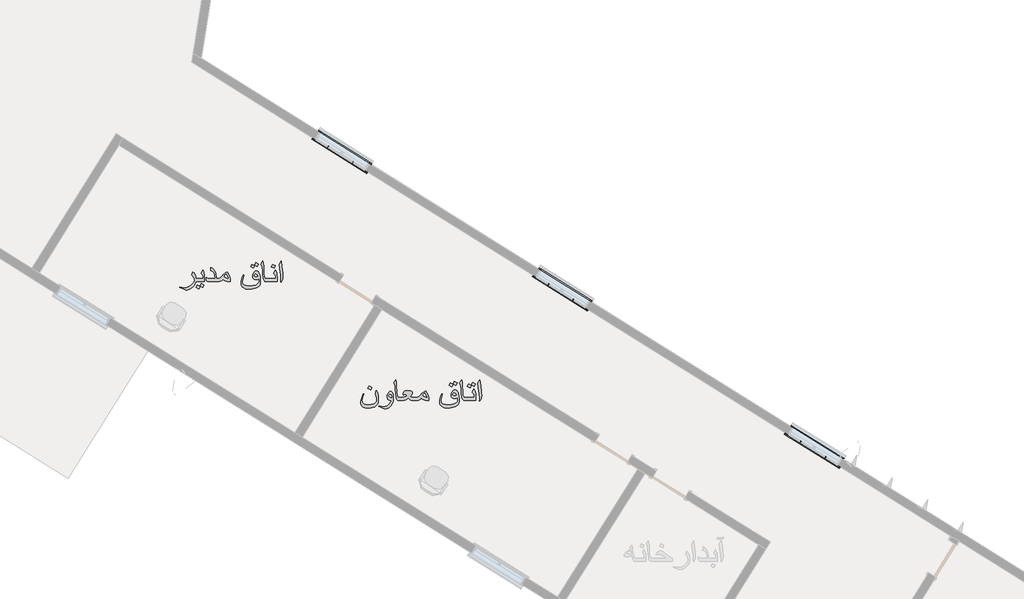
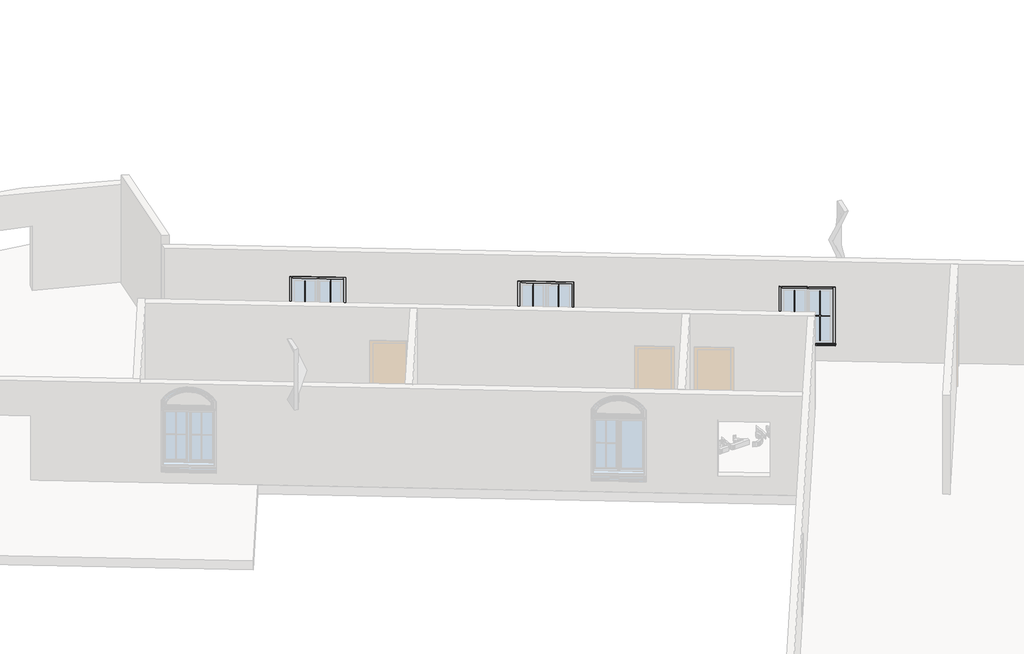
# One storey, part 12 of 12: 14 proxies.
"""IFC4 building model written with IfcOpenShell, lengths in millimetres."""

import ifcopenshell
import ifcopenshell.guid

model = None  # the IFC model being written
_history = None  # IfcOwnerHistory: only IFC2X3 demands one
_inside = {}  # id of a spatial element -> (the spatial element, [elements in it])
_under = {}  # id of a project, library or spatial element -> (it, [spatial elements below it])
_declared = {}  # id of a project -> (the project, [libraries it declares])
_typed = {}  # id of a type object -> (the type object, [elements of that type])
_made_of = {}  # id of a material, layer set ... -> (it, [elements and type objects made of it])


def new_model(schema):
    """Start an empty IFC model of exactly this schema.

    Asked for "IFC4X3", IfcOpenShell would pick the latest addendum, in which some entities
    have other attributes; the version numbers below select the first issue.
    IFC2X3 requires an IfcOwnerHistory on every rooted entity: one is made here for all.
    """
    global model, _history
    if schema == "IFC4X3":
        model = ifcopenshell.file(schema_version=(4, 3, 0, 0))
    else:
        model = ifcopenshell.file(schema=schema)
    _inside.clear()
    _under.clear()
    _declared.clear()
    _typed.clear()
    _made_of.clear()
    _history = None
    if model.schema == "IFC2X3":
        org = make("IfcOrganization", Name="unknown")
        user = make(
            "IfcPersonAndOrganization",
            ThePerson=make("IfcPerson", FamilyName="unknown"),
            TheOrganization=org,
        )
        app = make(
            "IfcApplication",
            ApplicationDeveloper=org,
            Version="unknown",
            ApplicationFullName="unknown",
            ApplicationIdentifier="unknown",
        )
        _history = make(
            "IfcOwnerHistory",
            OwningUser=user,
            OwningApplication=app,
            ChangeAction="ADDED",
            CreationDate=0,
        )
    return model


def make(cls, **values):
    """One entity of the class cls with the attributes given. An attribute that is None is left unset."""
    return model.create_entity(
        cls, **{name: value for name, value in values.items() if value is not None}
    )


def rooted(cls, **values):
    """An entity with a GlobalId (a new one), such as an element, a storey or a relation."""
    return make(cls, GlobalId=ifcopenshell.guid.new(), OwnerHistory=_history, **values)


def si_unit(unit_type, name, prefix=None):
    """IfcSIUnit, for example si_unit("LENGTHUNIT", "METRE", prefix="MILLI")."""
    return make("IfcSIUnit", UnitType=unit_type, Prefix=prefix, Name=name)


def assignment(units):
    """IfcUnitAssignment: the units of a project."""
    return None if units is None else make("IfcUnitAssignment", Units=units)


def point(xyz):
    """IfcCartesianPoint."""
    return None if xyz is None else make("IfcCartesianPoint", Coordinates=xyz)


def direction(xyz):
    """IfcDirection."""
    return None if xyz is None else make("IfcDirection", DirectionRatios=xyz)


def frame(location, z_axis=None, x_axis=None):
    """IfcAxis2Placement3D, a coordinate frame: its origin and axes. An axis left out is left unset."""
    return make(
        "IfcAxis2Placement3D",
        Location=point(location),
        Axis=direction(z_axis),
        RefDirection=direction(x_axis),
    )


def origin():
    """The frame at (0, 0, 0) with its axes left unset."""
    return frame((0.0, 0.0, 0.0))


def origin_with_axes():
    """The frame at (0, 0, 0) with the z axis (0, 0, 1) and the x axis (1, 0, 0) written out."""
    return frame((0.0, 0.0, 0.0), z_axis=(0.0, 0.0, 1.0), x_axis=(1.0, 0.0, 0.0))


def place(relative_to, where):
    """IfcLocalPlacement: puts the frame where relative to a parent placement (None: the world)."""
    return make(
        "IfcLocalPlacement", PlacementRelTo=relative_to, RelativePlacement=where
    )


def context(
    kind, dimensions, precision=None, world=None, true_north=None, identifier=None
):
    """IfcGeometricRepresentationContext, for example the 3D "Model" context."""
    return make(
        "IfcGeometricRepresentationContext",
        ContextIdentifier=identifier,
        ContextType=kind,
        CoordinateSpaceDimension=dimensions,
        Precision=precision,
        WorldCoordinateSystem=world,
        TrueNorth=true_north,
    )


def project(units=None, contexts=None):
    """IfcProject with its units and contexts."""
    return rooted(
        "IfcProject",
        Name="project",
        RepresentationContexts=contexts,
        UnitsInContext=assignment(units),
    )


def spatial(cls, under=None, at=None, **own):
    """A site, building, storey or space (cls), placed at a placement, below another one or the project."""
    s = rooted(cls, ObjectPlacement=at, **own)
    if under is not None:
        _under.setdefault(under.id(), (under, []))[1].append(s)
    return s


def polyline(points):
    """IfcPolyline through the points."""
    return make("IfcPolyline", Points=[point(p) for p in points])


def outline(outer, holes=None, kind="AREA"):
    """IfcArbitraryClosedProfileDef: a profile drawn as a closed curve; with holes, ...WithVoids."""
    if holes is None:
        return make("IfcArbitraryClosedProfileDef", ProfileType=kind, OuterCurve=outer)
    return make(
        "IfcArbitraryProfileDefWithVoids",
        ProfileType=kind,
        OuterCurve=outer,
        InnerCurves=holes,
    )


def extrude(swept, where, along, depth):
    """IfcExtrudedAreaSolid: the profile swept, set in the frame where, extruded along a direction by depth."""
    return make(
        "IfcExtrudedAreaSolid",
        SweptArea=swept,
        Position=where,
        ExtrudedDirection=direction(along),
        Depth=depth,
    )


def shape(context_of_items, identifier, shape_type, items):
    """IfcShapeRepresentation: the items that make up one representation, for example the "Body"."""
    return make(
        "IfcShapeRepresentation",
        ContextOfItems=context_of_items,
        RepresentationIdentifier=identifier,
        RepresentationType=shape_type,
        Items=items,
    )


def source(mapping_origin, context_of_items, identifier, shape_type, items):
    """IfcRepresentationMap: a shape defined once, which mapped items show again and again."""
    return make(
        "IfcRepresentationMap",
        MappingOrigin=mapping_origin,
        MappedRepresentation=shape(context_of_items, identifier, shape_type, items),
    )


def transform(
    local_origin,
    x_axis=None,
    y_axis=None,
    z_axis=None,
    scale=None,
    scale2=None,
    scale3=None,
    uniform=True,
):
    """IfcCartesianTransformationOperator3D, or its non-uniform kind. x_axis, y_axis, z_axis: its Axis1, 2, 3."""
    if uniform:
        return make(
            "IfcCartesianTransformationOperator3D",
            Axis1=direction(x_axis),
            Axis2=direction(y_axis),
            LocalOrigin=point(local_origin),
            Scale=scale,
            Axis3=direction(z_axis),
        )
    return make(
        "IfcCartesianTransformationOperator3DnonUniform",
        Axis1=direction(x_axis),
        Axis2=direction(y_axis),
        LocalOrigin=point(local_origin),
        Scale=scale,
        Axis3=direction(z_axis),
        Scale2=scale2,
        Scale3=scale3,
    )


def mapped(mapping_source, mapping_target):
    """IfcMappedItem: shows the shape of a source again, moved by a transform."""
    return make(
        "IfcMappedItem", MappingSource=mapping_source, MappingTarget=mapping_target
    )


def made_of(thing, what):
    """Note that an element or type object is made of a material, layer set ...; save() writes the relation."""
    if what is not None:
        _made_of.setdefault(what.id(), (what, []))[1].append(thing)
    return thing


def element(
    cls,
    number,
    at=None,
    inside=None,
    cuts=None,
    type_object=None,
    material=None,
    context=None,
    identifier="Body",
    shape_type=None,
    held_by="IfcProductDefinitionShape",
    body=None,
    shapes=None,
    **own,
):
    """One element of the class cls, such as IfcWall. Its Tag is "e" and its number.

    at: its placement. inside: the storey or other place that contains it. cuts: it is an
    opening in that element (IfcRelVoidsElement). A single representation is given by context,
    identifier, shape_type and body (its items); several are given by shapes. held_by: the class
    of the entity that holds the representations. save() writes the other relations.
    """
    e = rooted(cls, Tag="e%d" % number, ObjectPlacement=at, **own)
    if body is not None:
        shapes = [shape(context, identifier, shape_type, body)]
    if shapes is not None:
        e.Representation = make(held_by, Representations=shapes)
    if inside is not None:
        _inside.setdefault(inside.id(), (inside, []))[1].append(e)
    if cuts is not None:
        rooted(
            "IfcRelVoidsElement", RelatingBuildingElement=cuts, RelatedOpeningElement=e
        )
    if type_object is not None:
        _typed.setdefault(type_object.id(), (type_object, []))[1].append(e)
    return made_of(e, material)


def aggregate(whole, parts):
    """IfcRelAggregates: a whole, such as a stair, and the parts it consists of."""
    return rooted("IfcRelAggregates", RelatingObject=whole, RelatedObjects=parts)


def save(model, path):
    """Write the relations noted so far, then the file.

    IfcRelAggregates (storeys below a building ...), IfcRelContainedInSpatialStructure (elements
    in a storey), IfcRelDefinesByType, IfcRelAssociatesMaterial and IfcRelDeclares: one each for
    every whole, place, type object, material and project.
    """
    for whole, parts in _under.values():
        aggregate(whole, parts)
    for where, things in _inside.values():
        rooted(
            "IfcRelContainedInSpatialStructure",
            RelatedElements=things,
            RelatingStructure=where,
        )
    for kind, things in _typed.values():
        rooted("IfcRelDefinesByType", RelatedObjects=things, RelatingType=kind)
    for what, things in _made_of.values():
        rooted("IfcRelAssociatesMaterial", RelatedObjects=things, RelatingMaterial=what)
    for by, libraries in _declared.values():
        rooted("IfcRelDeclares", RelatingContext=by, RelatedDefinitions=libraries)
    model.write(path)


def m_muntin_pattern_2x2_m_muntin_pattern_2x2_d2d4b859(model_context):
    return source(origin(), model_context, "Body", "SweptSolid", [
        extrude(outline(polyline([(836.5, -6.35), (836.5, -281.7375), (823.8, -281.7375), (823.8, -6.35), (0.0, -6.35), (0.0, 6.35), (823.8, 6.35), (823.8, 281.7375), (836.5, 281.7375), (836.5, 6.35), (1660.3, 6.35), (1660.3, -6.35), (836.5, -6.35)])), frame((0.0, 9.525, 0.0), z_axis=(0.0, 1.0, 0.0), x_axis=(0.0, 0.0, 1.0)), (0.0, 0.0, 1.0), 12.7),
        extrude(outline(polyline([(836.5, -6.35), (836.5, -281.7375), (823.8, -281.7375), (823.8, -6.35), (0.0, -6.35), (0.0, 6.35), (823.8, 6.35), (823.8, 281.7375), (836.5, 281.7375), (836.5, 6.35), (1660.3, 6.35), (1660.3, -6.35), (836.5, -6.35)])), frame((0.0, -22.225, 0.0), z_axis=(0.0, 1.0, 0.0), x_axis=(0.0, 0.0, 1.0)), (0.0, 0.0, 1.0), 12.7),
    ])


def m_muntin_pattern_2x2_m_muntin_pattern_2x2_f3921bb5(model_context):
    return source(origin(), model_context, "Body", "SweptSolid", [
        extrude(outline(polyline([(836.5, -6.35), (836.5, -281.7375), (823.8, -281.7375), (823.8, -6.35), (0.0, -6.35), (0.0, 6.35), (823.8, 6.35), (823.8, 281.7375), (836.5, 281.7375), (836.5, 6.35), (1660.3, 6.35), (1660.3, -6.35), (836.5, -6.35)])), frame((0.0, -22.225, 0.0), z_axis=(0.0, 1.0, 0.0), x_axis=(0.0, 0.0, 1.0)), (0.0, 0.0, 1.0), 12.7),
        extrude(outline(polyline([(836.5, -6.35), (836.5, -281.7375), (823.8, -281.7375), (823.8, -6.35), (0.0, -6.35), (0.0, 6.35), (823.8, 6.35), (823.8, 281.7375), (836.5, 281.7375), (836.5, 6.35), (1660.3, 6.35), (1660.3, -6.35), (836.5, -6.35)])), frame((0.0, 9.525, 0.0), z_axis=(0.0, 1.0, 0.0), x_axis=(0.0, 0.0, 1.0)), (0.0, 0.0, 1.0), 12.7),
    ])


def m_trim_window_exterior_flat_with_sill_136e302d(model_context):
    return source(origin(), model_context, "Body", "SweptSolid", [
        extrude(outline(polyline([(760.0, -1820.4323709), (760.0, -1880.4323709), (-760.0, -1880.4323709), (-760.0, -1820.4323709), (760.0, -1820.4323709)])), origin_with_axes(), (0.0, 0.0, 1.0), 19.05),
        extrude(outline(polyline([(-1830.0, 38.1), (-1802.4580645, 38.1), (-1800.0, 19.05), (-1800.0, 0.0), (-1820.4323709, 0.0), (-1820.4323709, 19.05), (-1830.0, 19.05), (-1830.0, 38.1)])), frame((-772.7, 0.0, 0.0), z_axis=(1.0, 0.0, 0.0), x_axis=(0.0, 1.0, 0.0)), (0.0, 0.0, 1.0), 1545.4),
        extrude(outline(polyline([(-760.0, 60.0), (760.0, 60.0), (760.0, -1800.0), (700.0, -1800.0), (700.0, 0.0), (-700.0, 0.0), (-700.0, -1800.0), (-760.0, -1800.0), (-760.0, 60.0)])), origin_with_axes(), (0.0, 0.0, 1.0), 19.05),
    ])


def m_trim_window_interior_flat_picture_frame_c6c50358(model_context):
    return source(origin(), model_context, "Body", "SweptSolid", [
        extrude(outline(polyline([(747.3, 47.3), (747.3, -1847.3), (-747.3, -1847.3), (-747.3, 47.3), (747.3, 47.3)]), holes=[polyline([(687.3, -12.7), (-687.3, -12.7), (-687.3, -1787.3), (687.3, -1787.3), (687.3, -12.7)])]), origin_with_axes(), (0.0, 0.0, 1.0), 30.0),
    ])


model = new_model("IFC4")

# Units and contexts
model_context = context("Model", 3, world=origin())
ifc_project = project(units=[si_unit("LENGTHUNIT", "METRE", prefix="MILLI")], contexts=[model_context])

# Site, building, storey
site = spatial("IfcSite", under=ifc_project)
building = spatial("IfcBuilding", under=site)
storey = spatial("IfcBuildingStorey", under=building, Name="\u200fهمکف", Elevation=0.0)

# Proxies
placement = place(None, origin())
element("IfcBuildingElementProxy", 1, Name="600mm Arial", ObjectType="600mm Arial", at=placement, inside=storey, context=model_context, shape_type="SweptSolid", body=[
    extrude(outline(polyline([(37554.8154152, -25550.5750163), (37347.6242755, -25550.5750163), (37347.6242755, -25553.6652251), (37345.1778602, -25576.2347855), (37337.8386144, -25599.2090161), (37325.6065381, -25622.5879169), (37308.4816312, -25646.3714878), (37270.1483273, -25685.6612849), (37223.4273139, -25719.0649701), (37179.4286273, -25741.0275252), (37143.9648029, -25748.3483769), (37114.0927849, -25746.2146613), (37081.8663222, -25739.8135146), (37021.0922165, -25719.6535813), (36961.4953333, -25696.550592), (36968.4115148, -25680.9523954), (37026.0218353, -25694.4168764), (37080.2476414, -25701.2594815), (37107.3237562, -25699.2361306), (37134.9884823, -25693.1660776), (37163.2418195, -25683.0493228), (37192.0837679, -25668.8858659), (37240.9201028, -25635.4086044), (37282.0677039, -25594.1322445), (37298.3878689, -25572.1053101), (37310.0451297, -25551.2004157), (37317.0394861, -25531.4175614), (37319.3709382, -25512.7567472), (37314.3309549, -25480.7878018), (37299.2110049, -25447.2737521), (37279.6028946, -25419.241144), (37253.4464847, -25390.472772), (37276.9909324, -25315.1305394), (37307.525138, -25346.032627), (37328.7887173, -25376.9347146), (37342.9153859, -25413.8700669), (37347.6242755, -25454.9256976), (37347.6242755, -25475.2327837), (37526.5620779, -25475.2327837), (37523.8765394, -25433.3310244), (37515.8199237, -25402.6864542), (37503.0544184, -25381.6068159), (37479.4731825, -25352.8016557), (37512.4354093, -25277.4594231), (37533.6254122, -25311.929966), (37545.1033305, -25337.9392231), (37552.387394, -25381.5332395), (37554.8154152, -25446.6851409), (37554.8154152, -25550.5750163)])), origin_with_axes(), (0.0, 0.0, 1.0), 150.0),
    extrude(outline(polyline([(37545.3976361, -25632.2448192), (37516.1142293, -25691.8417024), (37451.2198453, -25657.2607949), (37481.2390161, -25597.6639117), (37545.3976361, -25632.2448192)])), origin_with_axes(), (0.0, 0.0, 1.0), 150.0),
    extrude(outline(polyline([(37451.2198453, -25670.6516995), (37421.7892857, -25729.5128188), (37357.0420545, -25694.4904528), (37387.6498365, -25635.335028), (37451.2198453, -25670.6516995)])), origin_with_axes(), (0.0, 0.0, 1.0), 150.0),
    extrude(outline(polyline([(38166.9710551, -25550.5750163), (38124.7382021, -25550.5750163), (38095.8226773, -25547.2272901), (38063.5226381, -25537.1841117), (38026.440133, -25518.5324945), (37994.0665174, -25494.0683418), (37969.9886408, -25520.9973039), (37945.4325176, -25538.2141813), (37914.9534943, -25547.4848075), (37873.1069174, -25550.5750163), (37837.3487874, -25550.5750163), (37809.0954502, -25550.5750163), (37654.4378594, -25550.5750163), (37632.3649397, -25547.1353196), (37612.6464648, -25536.8162297), (37598.7405254, -25521.7882502), (37594.1052122, -25504.2218849), (37595.723893, -25475.3799365), (37601.9043105, -25446.9794465), (37611.3220896, -25446.9794465), (37617.5392953, -25460.4071393), (37627.3617446, -25469.4938246), (37638.7660865, -25473.7980439), (37653.8492483, -25475.2327837), (37809.0954502, -25475.2327837), (37804.0554669, -25410.3383997), (37797.7554877, -25383.1887085), (37788.9355169, -25359.5706844), (37774.3397987, -25334.5547087), (37755.5686199, -25314.1004698), (37732.6219805, -25298.2079676), (37705.4998804, -25286.8772022), (37710.2087699, -25211.5349695), (37743.8423813, -25231.3086268), (37772.1968861, -25256.1958438), (37795.2722842, -25286.1966205), (37813.0685758, -25321.3109569), (37823.6911684, -25354.0248633), (37831.2787345, -25391.392477), (37835.8312742, -25433.4137979), (37837.1909063, -25475.2327837), (37870.7524726, -25475.2327837), (37905.5173212, -25470.5974705), (37936.2354678, -25456.6915311), (37957.3518943, -25439.2539246), (37976.5553344, -25416.0773589), (38003.9625431, -25382.9311911), (38037.0351344, -25354.4203365), (38067.9740102, -25335.2536845), (38096.3377121, -25324.5483185), (38143.4266074, -25402.5393014), (38161.0849432, -25445.0664601), (38166.9710551, -25478.7644508), (38166.9710551, -25550.5750163)]), holes=[polyline([(38119.8821597, -25469.199519), (38102.8124352, -25416.5188173), (38076.7663899, -25371.6372138), (38059.8070299, -25378.6269718), (38045.7171495, -25389.8841608), (38025.704369, -25418.7261092), (38043.1235814, -25438.1134904), (38066.5392704, -25455.3671559), (38092.1622514, -25468.4269668), (38116.2033398, -25475.2327837), (38119.8821597, -25469.199519)])]), origin_with_axes(), (0.0, 0.0, 1.0), 150.0),
    extrude(outline(polyline([(38892.140044, -25568.6748105), (38887.2472135, -25606.6034442), (38872.5687219, -25639.7496119), (38848.1045692, -25668.1133138), (38813.8547554, -25691.6945496), (38775.797363, -25708.2400424), (38731.9642233, -25720.0582515), (38682.3553363, -25727.1491769), (38626.9707019, -25729.5128188), (38583.7169763, -25727.4618766), (38545.6319928, -25721.3090503), (38512.7157512, -25711.0543396), (38484.9682518, -25696.6977448), (38461.2122719, -25676.6665701), (38444.2437149, -25652.3311762), (38434.0625807, -25623.6915628), (38430.6688693, -25590.7477302), (38434.2373246, -25541.0836608), (38444.9426907, -25488.9179939), (38460.8719811, -25439.7321712), (38482.4666542, -25390.472772), (38496.5933228, -25397.8304119), (38478.6406814, -25448.3038216), (38464.36686, -25499.9544538), (38458.9222065, -25552.7823083), (38461.7916861, -25577.5315695), (38470.4001247, -25598.8043459), (38484.7475226, -25616.6006374), (38504.8338795, -25630.920444), (38528.7002239, -25641.0923812), (38557.6249458, -25648.3580506), (38591.6080451, -25652.7174523), (38630.6495218, -25654.1705861), (38673.7836858, -25652.3863585), (38714.1587348, -25647.0336754), (38751.7746688, -25638.1125371), (38786.6314878, -25625.6229433), (38820.4306461, -25607.6886961), (38844.572902, -25586.848181), (38859.0582556, -25563.1013982), (38863.8867068, -25536.4483477), (38862.3416024, -25506.4291769), (38856.9705253, -25487.8879243), (38824.7440625, -25499.2922662), (38792.2232941, -25503.4861209), (38758.635668, -25499.4762072), (38732.0377997, -25487.4464659), (38719.6769647, -25476.58475), (38710.8477968, -25463.2766188), (38705.5502961, -25447.5220724), (38703.7844625, -25429.3211107), (38709.780939, -25385.0281185), (38727.7703686, -25342.7952654), (38741.8510519, -25322.4513911), (38757.16414, -25307.9200523), (38773.7096327, -25299.201249), (38791.4875301, -25296.2949812), (38814.4893519, -25300.3692743), (38834.9343938, -25312.5921536), (38852.8226558, -25332.9636191), (38868.1541379, -25361.4836708), (38878.6479718, -25390.2428458), (38886.1435675, -25421.1909186), (38890.6409249, -25454.3278893), (38892.140044, -25489.6537579), (38892.140044, -25568.6748105)]), holes=[polyline([(38827.6871185, -25416.6659701), (38811.7946163, -25387.2354104), (38798.1829825, -25375.536763), (38781.4811399, -25371.6372138), (38763.6020749, -25373.8261117), (38751.1676635, -25380.3928053), (38743.8836, -25390.3072251), (38741.4555788, -25402.5393014), (38744.5825758, -25413.1894852), (38753.9635666, -25421.3012832), (38767.3176831, -25426.433237), (38782.3640567, -25428.1438883), (38803.3333304, -25425.2744087), (38827.6871185, -25416.6659701)])]), origin_with_axes(), (0.0, 0.0, 1.0), 150.0),
    extrude(outline(polyline([(38845.0511486, -25133.1025282), (38815.7677418, -25192.6994114), (38750.8733579, -25158.1185038), (38780.8925287, -25098.5216206), (38845.0511486, -25133.1025282)])), origin_with_axes(), (0.0, 0.0, 1.0), 150.0),
    extrude(outline(polyline([(38750.8733579, -25171.5094085), (38721.4427983, -25230.3705277), (38656.6955671, -25195.3481618), (38687.3033491, -25136.1927369), (38750.8733579, -25171.5094085)])), origin_with_axes(), (0.0, 0.0, 1.0), 150.0),
    extrude(outline(polyline([(39287.6867652, -25550.5750163), (39080.4956255, -25550.5750163), (39052.2422883, -25550.5750163), (39024.8718679, -25550.5750163), (39000.5916562, -25545.0199982), (38981.6089452, -25528.3549438), (38969.0641692, -25504.3322495), (38959.9774839, -25470.8181997), (38948.6467185, -25376.640409), (38943.7170997, -25283.1983822), (38936.948071, -25210.5049), (38925.690882, -25170.0378805), (38915.3166097, -25151.9380863), (38901.5578231, -25136.1927369), (38953.355608, -25060.8505043), (38963.7666685, -25112.8690184), (38970.5724854, -25174.1581588), (38976.9000557, -25368.5470051), (38985.9131646, -25426.2309019), (38998.2372114, -25458.6045175), (39010.1933763, -25471.0757171), (39023.1060343, -25475.2327837), (39052.2422883, -25475.2327837), (39080.4956255, -25475.2327837), (39259.433428, -25475.2327837), (39256.7478894, -25433.3310244), (39248.6912737, -25402.6864542), (39235.9257685, -25381.6068159), (39212.3445326, -25352.8016557), (39245.3067594, -25277.4594231), (39266.4967623, -25311.929966), (39277.9746806, -25337.9392231), (39285.2587441, -25381.5332395), (39287.6867652, -25446.6851409), (39287.6867652, -25550.5750163)])), origin_with_axes(), (0.0, 0.0, 1.0), 150.0),
    extrude(outline(polyline([(39250.0156489, -25171.0679501), (39219.4078669, -25230.3705277), (39155.8378582, -25195.9367729), (39184.8269594, -25136.1927369), (39250.0156489, -25171.0679501)])), origin_with_axes(), (0.0, 0.0, 1.0), 150.0),
    extrude(outline(polyline([(39428.9534514, -25447.4209049), (39425.6793016, -25478.8380272), (39415.8568524, -25509.22508), (39386.5734455, -25559.9927954), (39379.2158056, -25556.0196698), (39381.0552156, -25529.1642842), (39381.864556, -25508.7836216), (39373.8447285, -25392.5329112), (39354.6412884, -25236.698098), (39339.4845502, -25136.1927369), (39362.2932339, -25098.7423498), (39386.5734455, -25060.8505043), (39404.3053577, -25185.4153479), (39421.1543531, -25327.9328328), (39428.9534514, -25447.4209049)])), origin_with_axes(), (0.0, 0.0, 1.0), 150.0),
])
element("IfcBuildingElementProxy", 2, Name="600mm Arial", ObjectType="600mm Arial", at=placement, inside=storey, context=model_context, shape_type="SweptSolid", body=[
    extrude(outline(polyline([(41701.710683, -28386.6364482), (41698.3445627, -28429.6510505), (41688.246202, -28466.5772057), (41671.4156007, -28497.414914), (41647.8527589, -28522.1641752), (41614.4214826, -28542.5724289), (41572.1058561, -28557.1497529), (41520.9058794, -28565.8961474), (41460.8215525, -28568.8116122), (41422.1111696, -28567.0089904), (41388.2384349, -28561.6011251), (41359.2033484, -28552.5880162), (41335.0059102, -28539.9696638), (41314.1470011, -28521.9710371), (41299.2477803, -28499.7601617), (41290.3082478, -28473.3370374), (41287.3284036, -28442.7016642), (41289.4069369, -28407.1458694), (41295.6425367, -28371.111828), (41318.377644, -28298.1976165), (41348.5439676, -28229.7715654), (41362.6706362, -28237.1292053), (41338.850277, -28289.3500545), (41324.7787907, -28329.1732805), (41317.8810033, -28361.4181374), (41315.5817409, -28390.9038793), (41317.8902004, -28414.4943123), (41324.8155789, -28435.0865069), (41336.3578765, -28452.6804634), (41352.5170932, -28467.2761815), (41372.962135, -28478.7357057), (41397.3619084, -28486.9210801), (41425.7164132, -28491.8323047), (41458.0256494, -28493.4693796), (41496.3405592, -28491.703546), (41532.4113888, -28486.4060453), (41566.2381383, -28477.5768774), (41597.8208076, -28465.2160423), (41630.911793, -28445.9666169), (41654.5482112, -28423.2407067), (41668.7300621, -28397.0383116), (41673.4573458, -28367.3594316), (41670.0728314, -28325.751978), (41659.9192883, -28287.1611567), (41645.6454669, -28256.3326455), (41626.3684504, -28229.7715654), (41659.3306771, -28154.4293328), (41679.7113397, -28188.1641118), (41692.5872095, -28222.5610783), (41699.4298146, -28262.9545214), (41701.710683, -28314.6787299), (41701.710683, -28386.6364482)])), origin_with_axes(), (0.0, 0.0, 1.0), 150.0),
    extrude(outline(polyline([(41551.0262178, -28076.291197), (41520.4184358, -28135.5937747), (41456.848427, -28101.1600199), (41485.8375282, -28041.4159839), (41551.0262178, -28076.291197)])), origin_with_axes(), (0.0, 0.0, 1.0), 150.0),
    extrude(outline(polyline([(42059.5862879, -28363.9749173), (42056.4868821, -28400.1193233), (42047.1886647, -28436.1533647), (42031.6916356, -28472.0770416), (42009.9957949, -28507.8903538), (41981.3377875, -28542.783961), (41950.5460645, -28567.7079662), (41917.620626, -28582.6623693), (41882.5614718, -28587.6471703), (41855.3749924, -28585.6606076), (41827.3791725, -28579.7009192), (41773.3740956, -28559.6881387), (41720.5462411, -28535.8493854), (41727.4624227, -28521.2812584), (41774.9927764, -28533.936399), (41819.727227, -28540.558275), (41844.053424, -28538.9212001), (41867.7358274, -28534.0099754), (41890.7744374, -28525.824601), (41913.1692538, -28514.3650769), (41947.6030086, -28489.0915838), (41982.0367633, -28454.4738881), (42031.3329507, -28389.8738097), (41983.3611385, -28385.2017084), (41964.5623685, -28379.3615817), (41949.2216893, -28371.1854044), (41935.702026, -28358.7969782), (41926.0451236, -28342.9688553), (41920.2509822, -28323.7010358), (41918.3196017, -28300.9935197), (41923.2492205, -28257.7305971), (41938.0380767, -28217.705036), (41950.2241678, -28198.2624725), (41963.9737573, -28184.3749272), (41979.2868454, -28176.0424), (41996.1634319, -28173.264891), (42012.7181217, -28176.033203), (42026.7712139, -28184.338139), (42038.3227086, -28198.1796991), (42047.3726057, -28217.5578832), (42056.5328673, -28258.9813958), (42059.5862879, -28314.0901187), (42059.5862879, -28363.9749173)]), holes=[polyline([(42031.3329507, -28314.5315771), (42021.620866, -28282.0475969), (42010.1429477, -28261.409417), (41998.0764183, -28251.8076969), (41983.6554441, -28248.6071236), (41973.2075954, -28250.4465336), (41964.2312747, -28255.9647635), (41958.0508572, -28264.2788966), (41955.9907181, -28274.506016), (41960.405302, -28291.833258), (41973.6490538, -28304.378034), (41996.8991959, -28311.9931913), (42031.3329507, -28314.5315771)])]), origin_with_axes(), (0.0, 0.0, 1.0), 150.0),
    extrude(outline(polyline([(42907.1864048, -28389.8738097), (42864.9535517, -28389.8738097), (42836.0380269, -28386.5260836), (42803.7379877, -28376.4829051), (42766.6554826, -28357.8312879), (42734.2818671, -28333.3671353), (42710.2039905, -28360.2960973), (42685.6478673, -28377.5129747), (42655.168844, -28386.783601), (42613.322267, -28389.8738097), (42577.5641371, -28389.8738097), (42549.3107999, -28389.8738097), (42518.8501707, -28389.8738097), (42492.730549, -28386.5260836), (42466.169469, -28376.4829051), (42438.6151075, -28357.3162532), (42419.8163376, -28331.8956073), (42390.017896, -28354.888232), (42356.2463288, -28372.0683212), (42309.6724682, -28385.4224376), (42257.0653429, -28389.8738097), (42247.9418694, -28389.8738097), (42219.6885322, -28389.8738097), (42192.3181118, -28389.8738097), (42168.0379001, -28384.3187916), (42149.0551891, -28367.6537372), (42136.5104131, -28343.6310429), (42127.4237278, -28310.1169932), (42116.0929624, -28215.9392024), (42111.1633436, -28122.4971756), (42104.3943149, -28049.8036934), (42093.1371259, -28009.3366739), (42082.7628536, -27991.2368798), (42069.004067, -27975.4915304), (42120.8018519, -27900.1492977), (42131.2129124, -27952.1678119), (42138.0187293, -28013.4569523), (42144.3462996, -28207.8457985), (42153.3594085, -28265.5296954), (42165.6834553, -28297.9033109), (42177.6396201, -28310.3745106), (42190.5522782, -28314.5315771), (42219.6885322, -28314.5315771), (42247.9418694, -28314.5315771), (42257.2124957, -28314.5315771), (42290.9472747, -28312.7289553), (42322.1068797, -28307.32109), (42355.9520232, -28296.4685712), (42389.2085556, -28280.6864336), (42371.403067, -28256.2590691), (42356.8717282, -28243.4567756), (42340.6481322, -28239.1893445), (42327.0364984, -28242.7210117), (42313.866323, -28258.0249027), (42304.4485439, -28258.0249027), (42304.4485439, -28233.3032326), (42305.9660571, -28212.0120621), (42310.5185968, -28194.3445293), (42318.106163, -28180.3006341), (42328.7287556, -28169.8803766), (42341.7977634, -28163.120545), (42358.9318674, -28158.2920938), (42405.3953634, -28154.4293328), (42448.2168276, -28157.5195416), (42482.209124, -28166.7901679), (42499.2052721, -28175.9688236), (42511.345378, -28187.3179832), (42518.6294415, -28200.8376465), (42521.0574626, -28216.5278136), (42517.2314899, -28234.664396), (42505.7535716, -28253.4631659), (42464.5507882, -28292.3115046), (42473.8030204, -28301.0670961), (42488.9045763, -28308.2040068), (42519.2916291, -28314.5315771), (42549.3107999, -28314.5315771), (42577.5641371, -28314.5315771), (42610.9678223, -28314.5315771), (42645.7326708, -28309.896264), (42676.4508174, -28295.9903246), (42697.5672439, -28278.552718), (42716.7706841, -28255.3761523), (42744.1778927, -28222.2299845), (42777.2504841, -28193.7191299), (42808.1893599, -28174.552478), (42836.5530617, -28163.8471119), (42883.6419571, -28241.8380949), (42901.3002929, -28284.3652535), (42907.1864048, -28318.0632443), (42907.1864048, -28389.8738097)]), holes=[polyline([(42860.0975094, -28308.4983124), (42843.0277848, -28255.8176107), (42816.9817396, -28210.9360073), (42800.0223796, -28217.9257652), (42785.9324992, -28229.1829542), (42765.9197186, -28258.0249027), (42783.3389311, -28277.4122838), (42806.7546201, -28294.6659494), (42832.3776011, -28307.7257602), (42856.4186894, -28314.5315771), (42860.0975094, -28308.4983124)])]), origin_with_axes(), (0.0, 0.0, 1.0), 150.0),
    extrude(outline(polyline([(43632.3553937, -28407.9736039), (43627.4625631, -28445.9022376), (43612.7840715, -28479.0484054), (43588.3199189, -28507.4121072), (43554.0701051, -28530.9933431), (43516.0127127, -28547.5388358), (43472.179573, -28559.3570449), (43422.5706859, -28566.4479704), (43367.1860516, -28568.8116122), (43323.932326, -28566.7606701), (43285.8473424, -28560.6078437), (43252.9311009, -28550.3531331), (43225.1836014, -28535.9965382), (43201.4276216, -28515.9653636), (43184.4590645, -28491.6299696), (43174.2779303, -28462.9903563), (43170.8842189, -28430.0465236), (43174.4526743, -28380.3824543), (43185.1580403, -28328.2167873), (43201.0873307, -28279.0309646), (43222.6820038, -28229.7715654), (43236.8086725, -28237.1292053), (43218.8560311, -28287.6026151), (43204.5822097, -28339.2532472), (43199.1375562, -28392.0811017), (43202.0070357, -28416.8303629), (43210.6154744, -28438.1031393), (43224.9628722, -28455.8994308), (43245.0492292, -28470.2192375), (43268.9155736, -28480.3911746), (43297.8402955, -28487.656844), (43331.8233948, -28492.0162457), (43370.8648715, -28493.4693796), (43413.9990354, -28491.6851519), (43454.3740844, -28486.3324689), (43491.9900184, -28477.4113305), (43526.8468375, -28464.9217367), (43560.6459958, -28446.9874895), (43584.7882517, -28426.1469745), (43599.2736053, -28402.4001917), (43604.1020564, -28375.7471411), (43602.5569521, -28345.7279703), (43597.1858749, -28327.1867178), (43564.9594122, -28338.5910596), (43532.4386438, -28342.7849143), (43498.8510176, -28338.7750006), (43472.2531494, -28326.7452594), (43459.8923143, -28315.8835434), (43451.0631465, -28302.5754123), (43445.7656457, -28286.8208658), (43443.9998121, -28268.6199041), (43449.9962887, -28224.3269119), (43467.9857182, -28182.0940589), (43482.0664016, -28161.7501845), (43497.3794896, -28147.2188457), (43513.9249824, -28138.5000424), (43531.7028798, -28135.5937747), (43554.7047015, -28139.6680678), (43575.1497434, -28151.890947), (43593.0380054, -28172.2624125), (43608.3694876, -28200.7824642), (43618.8633215, -28229.5416392), (43626.3589172, -28260.489712), (43630.8562745, -28293.6266827), (43632.3553937, -28328.9525513), (43632.3553937, -28407.9736039)]), holes=[polyline([(43567.9024681, -28255.9647635), (43552.0099659, -28226.5342039), (43538.3983321, -28214.8355564), (43521.6964895, -28210.9360073), (43503.8174246, -28213.1249051), (43491.3830131, -28219.6915988), (43484.0989496, -28229.6060185), (43481.6709285, -28241.8380949), (43484.7979254, -28252.4882786), (43494.1789163, -28260.6000766), (43507.5330327, -28265.7320305), (43522.5794063, -28267.4426817), (43543.54868, -28264.5732022), (43567.9024681, -28255.9647635)])]), origin_with_axes(), (0.0, 0.0, 1.0), 150.0),
    extrude(outline(polyline([(43585.2664983, -27972.4013216), (43555.9830915, -28031.9982048), (43491.0887075, -27997.4172973), (43521.1078783, -27937.8204141), (43585.2664983, -27972.4013216)])), origin_with_axes(), (0.0, 0.0, 1.0), 150.0),
    extrude(outline(polyline([(43491.0887075, -28010.8082019), (43461.6581479, -28069.6693211), (43396.9109168, -28034.6469552), (43427.5186988, -27975.4915304), (43491.0887075, -28010.8082019)])), origin_with_axes(), (0.0, 0.0, 1.0), 150.0),
    extrude(outline(polyline([(44027.9021149, -28389.8738097), (43820.7109752, -28389.8738097), (43792.457638, -28389.8738097), (43765.0872175, -28389.8738097), (43740.8070059, -28384.3187916), (43721.8242949, -28367.6537372), (43709.2795189, -28343.6310429), (43700.1928336, -28310.1169932), (43688.8620681, -28215.9392024), (43683.9324494, -28122.4971756), (43677.1634207, -28049.8036934), (43665.9062316, -28009.3366739), (43655.5319594, -27991.2368798), (43641.7731728, -27975.4915304), (43693.5709577, -27900.1492977), (43703.9820181, -27952.1678119), (43710.787835, -28013.4569523), (43717.1154054, -28207.8457985), (43726.1285142, -28265.5296954), (43738.4525611, -28297.9033109), (43750.4087259, -28310.3745106), (43763.321384, -28314.5315771), (43792.457638, -28314.5315771), (43820.7109752, -28314.5315771), (43999.6487777, -28314.5315771), (43996.9632391, -28272.6298179), (43988.9066234, -28241.9852477), (43976.1411182, -28220.9056093), (43952.5598823, -28192.1004491), (43985.522109, -28116.7582165), (44006.712112, -28151.2287595), (44018.1900302, -28177.2380165), (44025.4740937, -28220.8320329), (44027.9021149, -28285.9839343), (44027.9021149, -28389.8738097)])), origin_with_axes(), (0.0, 0.0, 1.0), 150.0),
    extrude(outline(polyline([(44018.4843358, -27991.2368798), (43989.200929, -28050.833763), (43924.306545, -28016.2528554), (43954.3257159, -27956.6559722), (44018.4843358, -27991.2368798)])), origin_with_axes(), (0.0, 0.0, 1.0), 150.0),
    extrude(outline(polyline([(43924.306545, -28029.6437601), (43894.8759854, -28088.5048793), (43830.1287543, -28053.4825133), (43860.7365363, -27994.3270885), (43924.306545, -28029.6437601)])), origin_with_axes(), (0.0, 0.0, 1.0), 150.0),
    extrude(outline(polyline([(44169.168801, -28286.7196983), (44165.8946513, -28318.1368207), (44156.072202, -28348.5238735), (44126.7887952, -28399.2915888), (44119.4311553, -28395.3184633), (44121.2705653, -28368.4630776), (44122.0799057, -28348.0824151), (44114.0600782, -28231.8317046), (44094.856638, -28075.9968914), (44079.6998998, -27975.4915304), (44102.5085835, -27938.0411433), (44126.7887952, -27900.1492977), (44144.5207074, -28024.7141413), (44161.3697027, -28167.2316262), (44169.168801, -28286.7196983)])), origin_with_axes(), (0.0, 0.0, 1.0), 150.0),
])
m_muntin_pattern_2x2_m_muntin_pattern_2x2_shape = m_muntin_pattern_2x2_m_muntin_pattern_2x2_d2d4b859(model_context)
element("IfcBuildingElementProxy", 3, Name="M_Muntin Pattern_2x2 : M_Muntin Pattern_2x2", ObjectType="M_Muntin Pattern_2x2 : M_Muntin Pattern_2x2", at=placement, inside=storey, context=model_context, shape_type="MappedRepresentation", body=[
    mapped(m_muntin_pattern_2x2_m_muntin_pattern_2x2_shape, transform((41095.7255387, -22702.4373621, 669.85), x_axis=(-0.8480480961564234, 0.529919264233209, 0.0), y_axis=(-0.529919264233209, -0.8480480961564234, 0.0), z_axis=(0.0, 0.0, 1.0))),
])
element("IfcBuildingElementProxy", 4, Name="M_Muntin Pattern_2x2 : M_Muntin Pattern_2x2", ObjectType="M_Muntin Pattern_2x2 : M_Muntin Pattern_2x2", at=placement, inside=storey, context=model_context, shape_type="MappedRepresentation", body=[
    mapped(m_muntin_pattern_2x2_m_muntin_pattern_2x2_shape, transform((46353.6237349, -25987.9368003, 669.85), x_axis=(-0.8480480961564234, 0.529919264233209, 0.0), y_axis=(-0.529919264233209, -0.8480480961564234, 0.0), z_axis=(0.0, 0.0, 1.0))),
])
element("IfcBuildingElementProxy", 5, Name="M_Muntin Pattern_2x2 : M_Muntin Pattern_2x2", ObjectType="M_Muntin Pattern_2x2 : M_Muntin Pattern_2x2", at=placement, inside=storey, context=model_context, shape_type="MappedRepresentation", body=[
    mapped(m_muntin_pattern_2x2_m_muntin_pattern_2x2_shape, transform((52374.7652176, -29750.3635764, 669.85), x_axis=(-0.8480480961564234, 0.529919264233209, 0.0), y_axis=(-0.529919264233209, -0.8480480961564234, 0.0), z_axis=(0.0, 0.0, 1.0))),
])
m_muntin_pattern_2x2_m_muntin_pattern_2x2_2_shape = m_muntin_pattern_2x2_m_muntin_pattern_2x2_f3921bb5(model_context)
element("IfcBuildingElementProxy", 6, Name="M_Muntin Pattern_2x2 : M_Muntin Pattern_2x2", ObjectType="M_Muntin Pattern_2x2 : M_Muntin Pattern_2x2", at=placement, inside=storey, context=model_context, shape_type="MappedRepresentation", body=[
    mapped(m_muntin_pattern_2x2_m_muntin_pattern_2x2_2_shape, transform((40504.7844241, -22333.1763708, 669.85), x_axis=(0.8480480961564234, -0.529919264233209, 0.0), y_axis=(0.529919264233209, 0.8480480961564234, 0.0), z_axis=(0.0, 0.0, 1.0))),
])
element("IfcBuildingElementProxy", 7, Name="M_Muntin Pattern_2x2 : M_Muntin Pattern_2x2", ObjectType="M_Muntin Pattern_2x2 : M_Muntin Pattern_2x2", at=placement, inside=storey, context=model_context, shape_type="MappedRepresentation", body=[
    mapped(m_muntin_pattern_2x2_m_muntin_pattern_2x2_2_shape, transform((45762.6826203, -25618.675809, 669.85), x_axis=(0.8480480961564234, -0.529919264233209, 0.0), y_axis=(0.529919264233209, 0.8480480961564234, 0.0), z_axis=(0.0, 0.0, 1.0))),
])
element("IfcBuildingElementProxy", 8, Name="M_Muntin Pattern_2x2 : M_Muntin Pattern_2x2", ObjectType="M_Muntin Pattern_2x2 : M_Muntin Pattern_2x2", at=placement, inside=storey, context=model_context, shape_type="MappedRepresentation", body=[
    mapped(m_muntin_pattern_2x2_m_muntin_pattern_2x2_2_shape, transform((51783.824103, -29381.1025851, 669.85), x_axis=(0.8480480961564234, -0.529919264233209, 0.0), y_axis=(0.529919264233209, 0.8480480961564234, 0.0), z_axis=(0.0, 0.0, 1.0))),
])
m_trim_window_exterior_flat_with_sill_shape = m_trim_window_exterior_flat_with_sill_136e302d(model_context)
element("IfcBuildingElementProxy", 9, Name="M_Trim-Window-Exterior-Flat : with Sill", ObjectType="M_Trim-Window-Exterior-Flat : with Sill", at=placement, inside=storey, context=model_context, shape_type="MappedRepresentation", body=[
    mapped(m_trim_window_exterior_flat_with_sill_shape, transform((40795.2075004, -22525.8845245, 2400.0), x_axis=(0.8480480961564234, -0.529919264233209, 0.0), y_axis=(0.0, 0.0, 1.0), z_axis=(-0.529919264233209, -0.8480480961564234, 0.0))),
])
element("IfcBuildingElementProxy", 10, Name="M_Trim-Window-Exterior-Flat : with Sill", ObjectType="M_Trim-Window-Exterior-Flat : with Sill", at=placement, inside=storey, context=model_context, shape_type="MappedRepresentation", body=[
    mapped(m_trim_window_exterior_flat_with_sill_shape, transform((46053.1056966, -25811.3839628, 2400.0), x_axis=(0.8480480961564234, -0.529919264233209, 0.0), y_axis=(0.0, 0.0, 1.0), z_axis=(-0.529919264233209, -0.8480480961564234, 0.0))),
])
element("IfcBuildingElementProxy", 11, Name="M_Trim-Window-Exterior-Flat : with Sill", ObjectType="M_Trim-Window-Exterior-Flat : with Sill", at=placement, inside=storey, context=model_context, shape_type="MappedRepresentation", body=[
    mapped(m_trim_window_exterior_flat_with_sill_shape, transform((52074.2471793, -29573.8107388, 2400.0), x_axis=(0.8480480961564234, -0.529919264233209, 0.0), y_axis=(0.0, 0.0, 1.0), z_axis=(-0.529919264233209, -0.8480480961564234, 0.0))),
])
m_trim_window_interior_flat_picture_frame_shape = m_trim_window_interior_flat_picture_frame_c6c50358(model_context)
element("IfcBuildingElementProxy", 12, Name="M_Trim-Window-Interior-Flat : Picture Frame", ObjectType="M_Trim-Window-Interior-Flat : Picture Frame", at=placement, inside=storey, context=model_context, shape_type="MappedRepresentation", body=[
    mapped(m_trim_window_interior_flat_picture_frame_shape, transform((40901.1913533, -22356.2749053, 2400.0), x_axis=(-0.8480480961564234, 0.529919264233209, 0.0), y_axis=(0.0, 0.0, 1.0), z_axis=(0.529919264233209, 0.8480480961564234, 0.0))),
])
element("IfcBuildingElementProxy", 13, Name="M_Trim-Window-Interior-Flat : Picture Frame", ObjectType="M_Trim-Window-Interior-Flat : Picture Frame", at=placement, inside=storey, context=model_context, shape_type="MappedRepresentation", body=[
    mapped(m_trim_window_interior_flat_picture_frame_shape, transform((46159.0895494, -25641.7743436, 2400.0), x_axis=(-0.8480480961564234, 0.529919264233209, 0.0), y_axis=(0.0, 0.0, 1.0), z_axis=(0.529919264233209, 0.8480480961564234, 0.0))),
])
element("IfcBuildingElementProxy", 14, Name="M_Trim-Window-Interior-Flat : Picture Frame", ObjectType="M_Trim-Window-Interior-Flat : Picture Frame", at=placement, inside=storey, context=model_context, shape_type="MappedRepresentation", body=[
    mapped(m_trim_window_interior_flat_picture_frame_shape, transform((52180.2310321, -29404.2011196, 2400.0), x_axis=(-0.8480480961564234, 0.529919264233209, 0.0), y_axis=(0.0, 0.0, 1.0), z_axis=(0.529919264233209, 0.8480480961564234, 0.0))),
])

save(model, "model.ifc")
